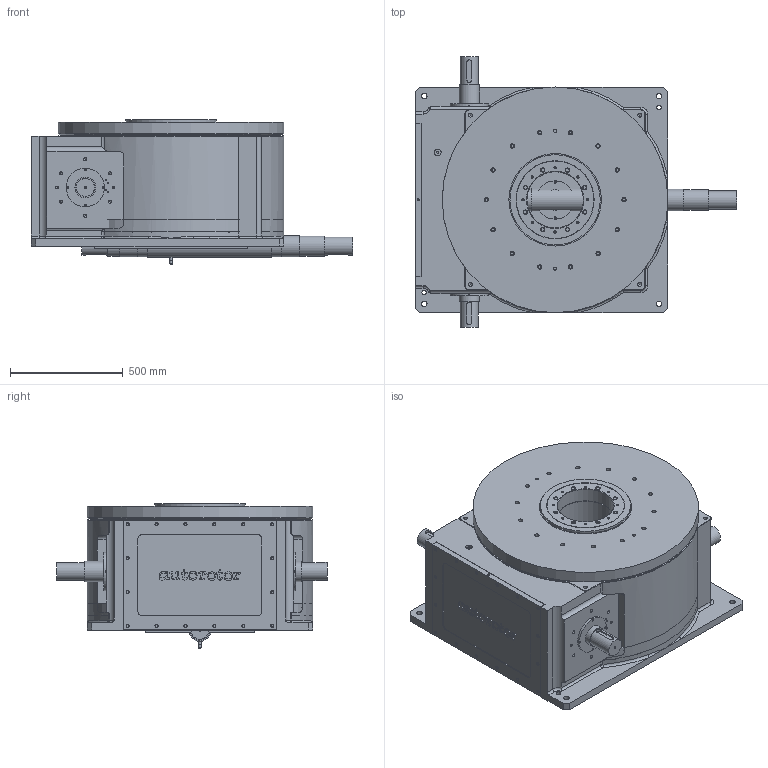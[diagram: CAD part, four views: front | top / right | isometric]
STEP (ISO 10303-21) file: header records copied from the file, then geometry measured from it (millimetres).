
FILE_DESCRIPTION( ( 'Unknown' ), '1' );
FILE_NAME( 'C:/Documents and Settings/Vaccario/Desktop/T105.stp', 'Unknown', ( 'Unknown' ), ( 'Unknown' ), 'PSStep 11.0', 'Unknown', ' ' );
FILE_SCHEMA( ( 'AUTOMOTIVE_DESIGN { 1 0 10303 214 1 1 1 1 }' ) );
Length unit declared in the file: millimetre
Products named in the file (11): Assem1; vite_tcei_m12x80_uni5931; 02761_; 32606_; vite_tcei_m8x35_uni5931; ingrassatore m10x1 7663 a; 215460; 215466; vite_tcei_m12x65_uni5931; 101453_; 215464
Bounding box: 1425 x 1200 x 640 mm (x, y, z)
Volume: 444872405.1 mm3; surface area: 21249589.1 mm2
Topology: 43 solids, 45 shells, 3006 faces, 7634 edges, 4870 vertices
Faces by surface type: plane 1474, cylinder 934, cone 350, torus 130, sphere 88, bspline 30
Full cylindrical faces by diameter (mm): 1.155 x4, 3.242 x4, 4.134 x32, 5 x2, 5.5 x12, 6.647 x32, 8 x34, 8.376 x4, 8.5 x32, 9 x14, 10.106 x68, 12 x30, 12.5 x44, 13 x17, 13.835 x28, 14 x32, 15 x4, 17 x4, 17.294 x8, 18 x11, 19 x44, 20 x4, 25 x10, 30 x2, 80 x4, 90 x4, 92 x3, 94.5 x4, 95 x4, 100 x2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
Entity records: 52748 total; most frequent: CARTESIAN_POINT 11272, DIRECTION 6567, ORIENTED_EDGE 5884, EDGE_CURVE 2942, AXIS2_PLACEMENT_3D 2387, VERTEX_POINT 2160, EDGE_LOOP 1984, LINE 1793
